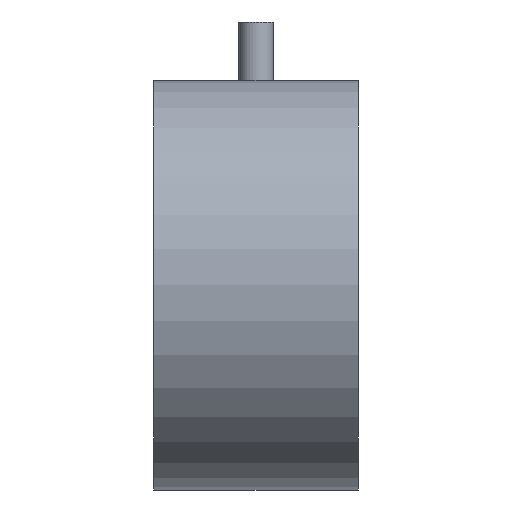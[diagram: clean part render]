
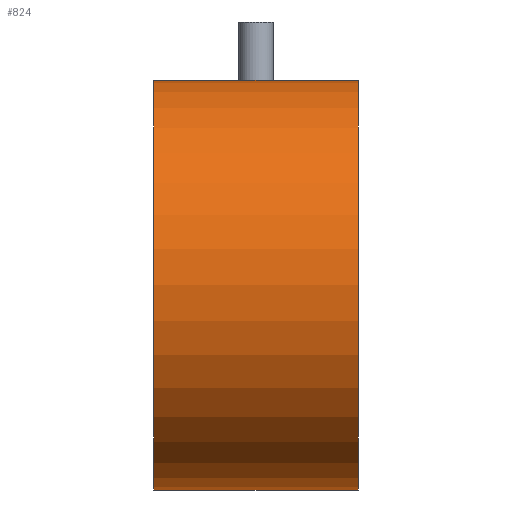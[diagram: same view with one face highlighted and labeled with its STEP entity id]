
A CAD part, front view. The second image highlights one B-rep face of the part: STEP entity #824.
In plain terms, the highlighted cylindrical face has radius 60 mm (diameter 120 mm), a full revolution.
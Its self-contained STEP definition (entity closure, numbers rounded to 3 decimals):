
#458 = VERTEX_POINT('',#459);
#459 = CARTESIAN_POINT('',(882.5,-301.266,1135.));
#468 = PLANE('',#469);
#469 = AXIS2_PLACEMENT_3D('',#470,#471,#472);
#470 = CARTESIAN_POINT('',(882.5,-350.,1065.));
#471 = DIRECTION('',(1.,0.,-0.));
#472 = DIRECTION('',(0.,0.,1.));
#480 = PLANE('',#481);
#481 = AXIS2_PLACEMENT_3D('',#482,#483,#484);
#482 = CARTESIAN_POINT('',(882.5,-350.,1135.));
#483 = DIRECTION('',(0.,0.,1.));
#484 = DIRECTION('',(1.,0.,-0.));
#492 = EDGE_CURVE('',#493,#458,#495,.T.);
#493 = VERTEX_POINT('',#494);
#494 = CARTESIAN_POINT('',(882.5,-301.266,1065.));
#495 = SURFACE_CURVE('',#496,(#501,#508),.PCURVE_S1.);
#496 = CIRCLE('',#497,60.);
#497 = AXIS2_PLACEMENT_3D('',#498,#499,#500);
#498 = CARTESIAN_POINT('',(882.5,-350.,1100.));
#499 = DIRECTION('',(1.,0.,0.));
#500 = DIRECTION('',(-0.,0.,1.));
#501 = PCURVE('',#468,#502);
#502 = DEFINITIONAL_REPRESENTATION('',(#503),#507);
#503 = CIRCLE('',#504,60.);
#504 = AXIS2_PLACEMENT_2D('',#505,#506);
#505 = CARTESIAN_POINT('',(35.,0.));
#506 = DIRECTION('',(1.,0.));
#507 = ( GEOMETRIC_REPRESENTATION_CONTEXT(2) 
PARAMETRIC_REPRESENTATION_CONTEXT() REPRESENTATION_CONTEXT('2D SPACE',''
  ) );
#508 = PCURVE('',#509,#514);
#509 = CYLINDRICAL_SURFACE('',#510,60.);
#510 = AXIS2_PLACEMENT_3D('',#511,#512,#513);
#511 = CARTESIAN_POINT('',(870.,-350.,1100.));
#512 = DIRECTION('',(1.,0.,0.));
#513 = DIRECTION('',(-0.,0.,1.));
#514 = DEFINITIONAL_REPRESENTATION('',(#515),#519);
#515 = LINE('',#516,#517);
#516 = CARTESIAN_POINT('',(0.,12.5));
#517 = VECTOR('',#518,1.);
#518 = DIRECTION('',(1.,0.));
#519 = ( GEOMETRIC_REPRESENTATION_CONTEXT(2) 
PARAMETRIC_REPRESENTATION_CONTEXT() REPRESENTATION_CONTEXT('2D SPACE',''
  ) );
#537 = PLANE('',#538);
#538 = AXIS2_PLACEMENT_3D('',#539,#540,#541);
#539 = CARTESIAN_POINT('',(882.5,-350.,1065.));
#540 = DIRECTION('',(0.,0.,1.));
#541 = DIRECTION('',(1.,0.,-0.));
#580 = EDGE_CURVE('',#458,#581,#583,.T.);
#581 = VERTEX_POINT('',#582);
#582 = CARTESIAN_POINT('',(917.5,-301.266,1135.));
#583 = SURFACE_CURVE('',#584,(#588,#594),.PCURVE_S1.);
#584 = LINE('',#585,#586);
#585 = CARTESIAN_POINT('',(870.,-301.266,1135.));
#586 = VECTOR('',#587,1.);
#587 = DIRECTION('',(1.,0.,0.));
#588 = PCURVE('',#480,#589);
#589 = DEFINITIONAL_REPRESENTATION('',(#590),#593);
#590 = B_SPLINE_CURVE_WITH_KNOTS('',1,(#591,#592),.UNSPECIFIED.,.F.,.F.,
  (2,2),(9.,51.),.PIECEWISE_BEZIER_KNOTS.);
#591 = CARTESIAN_POINT('',(-3.5,48.734));
#592 = CARTESIAN_POINT('',(38.5,48.734));
#593 = ( GEOMETRIC_REPRESENTATION_CONTEXT(2) 
PARAMETRIC_REPRESENTATION_CONTEXT() REPRESENTATION_CONTEXT('2D SPACE',''
  ) );
#594 = PCURVE('',#509,#595);
#595 = DEFINITIONAL_REPRESENTATION('',(#596),#599);
#596 = B_SPLINE_CURVE_WITH_KNOTS('',1,(#597,#598),.UNSPECIFIED.,.F.,.F.,
  (2,2),(9.,51.),.PIECEWISE_BEZIER_KNOTS.);
#597 = CARTESIAN_POINT('',(5.335,9.));
#598 = CARTESIAN_POINT('',(5.335,51.));
#599 = ( GEOMETRIC_REPRESENTATION_CONTEXT(2) 
PARAMETRIC_REPRESENTATION_CONTEXT() REPRESENTATION_CONTEXT('2D SPACE',''
  ) );
#617 = PLANE('',#618);
#618 = AXIS2_PLACEMENT_3D('',#619,#620,#621);
#619 = CARTESIAN_POINT('',(917.5,-350.,1065.));
#620 = DIRECTION('',(1.,0.,-0.));
#621 = DIRECTION('',(0.,0.,1.));
#782 = EDGE_CURVE('',#493,#783,#785,.T.);
#783 = VERTEX_POINT('',#784);
#784 = CARTESIAN_POINT('',(917.5,-301.266,1065.));
#785 = SURFACE_CURVE('',#786,(#790,#796),.PCURVE_S1.);
#786 = LINE('',#787,#788);
#787 = CARTESIAN_POINT('',(870.,-301.266,1065.));
#788 = VECTOR('',#789,1.);
#789 = DIRECTION('',(1.,0.,0.));
#790 = PCURVE('',#537,#791);
#791 = DEFINITIONAL_REPRESENTATION('',(#792),#795);
#792 = B_SPLINE_CURVE_WITH_KNOTS('',1,(#793,#794),.UNSPECIFIED.,.F.,.F.,
  (2,2),(9.,51.),.PIECEWISE_BEZIER_KNOTS.);
#793 = CARTESIAN_POINT('',(-3.5,48.734));
#794 = CARTESIAN_POINT('',(38.5,48.734));
#795 = ( GEOMETRIC_REPRESENTATION_CONTEXT(2) 
PARAMETRIC_REPRESENTATION_CONTEXT() REPRESENTATION_CONTEXT('2D SPACE',''
  ) );
#796 = PCURVE('',#509,#797);
#797 = DEFINITIONAL_REPRESENTATION('',(#798),#801);
#798 = B_SPLINE_CURVE_WITH_KNOTS('',1,(#799,#800),.UNSPECIFIED.,.F.,.F.,
  (2,2),(9.,51.),.PIECEWISE_BEZIER_KNOTS.);
#799 = CARTESIAN_POINT('',(4.09,9.));
#800 = CARTESIAN_POINT('',(4.09,51.));
#801 = ( GEOMETRIC_REPRESENTATION_CONTEXT(2) 
PARAMETRIC_REPRESENTATION_CONTEXT() REPRESENTATION_CONTEXT('2D SPACE',''
  ) );
#824 = ADVANCED_FACE('',(#825,#907),#509,.T.);
#825 = FACE_BOUND('',#826,.T.);
#826 = EDGE_LOOP('',(#827,#852,#879,#880));
#827 = ORIENTED_EDGE('',*,*,#828,.T.);
#828 = EDGE_CURVE('',#829,#831,#833,.T.);
#829 = VERTEX_POINT('',#830);
#830 = CARTESIAN_POINT('',(870.,-350.,1160.));
#831 = VERTEX_POINT('',#832);
#832 = CARTESIAN_POINT('',(930.,-350.,1160.));
#833 = SEAM_CURVE('',#834,(#838,#845),.PCURVE_S1.);
#834 = LINE('',#835,#836);
#835 = CARTESIAN_POINT('',(870.,-350.,1160.));
#836 = VECTOR('',#837,1.);
#837 = DIRECTION('',(1.,0.,0.));
#838 = PCURVE('',#509,#839);
#839 = DEFINITIONAL_REPRESENTATION('',(#840),#844);
#840 = LINE('',#841,#842);
#841 = CARTESIAN_POINT('',(6.283,-0.));
#842 = VECTOR('',#843,1.);
#843 = DIRECTION('',(0.,1.));
#844 = ( GEOMETRIC_REPRESENTATION_CONTEXT(2) 
PARAMETRIC_REPRESENTATION_CONTEXT() REPRESENTATION_CONTEXT('2D SPACE',''
  ) );
#845 = PCURVE('',#509,#846);
#846 = DEFINITIONAL_REPRESENTATION('',(#847),#851);
#847 = LINE('',#848,#849);
#848 = CARTESIAN_POINT('',(0.,-0.));
#849 = VECTOR('',#850,1.);
#850 = DIRECTION('',(0.,1.));
#851 = ( GEOMETRIC_REPRESENTATION_CONTEXT(2) 
PARAMETRIC_REPRESENTATION_CONTEXT() REPRESENTATION_CONTEXT('2D SPACE',''
  ) );
#852 = ORIENTED_EDGE('',*,*,#853,.F.);
#853 = EDGE_CURVE('',#831,#831,#854,.T.);
#854 = SURFACE_CURVE('',#855,(#860,#867),.PCURVE_S1.);
#855 = CIRCLE('',#856,60.);
#856 = AXIS2_PLACEMENT_3D('',#857,#858,#859);
#857 = CARTESIAN_POINT('',(930.,-350.,1100.));
#858 = DIRECTION('',(1.,0.,0.));
#859 = DIRECTION('',(-0.,0.,1.));
#860 = PCURVE('',#509,#861);
#861 = DEFINITIONAL_REPRESENTATION('',(#862),#866);
#862 = LINE('',#863,#864);
#863 = CARTESIAN_POINT('',(0.,60.));
#864 = VECTOR('',#865,1.);
#865 = DIRECTION('',(1.,0.));
#866 = ( GEOMETRIC_REPRESENTATION_CONTEXT(2) 
PARAMETRIC_REPRESENTATION_CONTEXT() REPRESENTATION_CONTEXT('2D SPACE',''
  ) );
#867 = PCURVE('',#868,#873);
#868 = PLANE('',#869);
#869 = AXIS2_PLACEMENT_3D('',#870,#871,#872);
#870 = CARTESIAN_POINT('',(930.,-350.,1100.));
#871 = DIRECTION('',(1.,0.,0.));
#872 = DIRECTION('',(-0.,0.,1.));
#873 = DEFINITIONAL_REPRESENTATION('',(#874),#878);
#874 = CIRCLE('',#875,60.);
#875 = AXIS2_PLACEMENT_2D('',#876,#877);
#876 = CARTESIAN_POINT('',(0.,0.));
#877 = DIRECTION('',(1.,0.));
#878 = ( GEOMETRIC_REPRESENTATION_CONTEXT(2) 
PARAMETRIC_REPRESENTATION_CONTEXT() REPRESENTATION_CONTEXT('2D SPACE',''
  ) );
#879 = ORIENTED_EDGE('',*,*,#828,.F.);
#880 = ORIENTED_EDGE('',*,*,#881,.T.);
#881 = EDGE_CURVE('',#829,#829,#882,.T.);
#882 = SURFACE_CURVE('',#883,(#888,#895),.PCURVE_S1.);
#883 = CIRCLE('',#884,60.);
#884 = AXIS2_PLACEMENT_3D('',#885,#886,#887);
#885 = CARTESIAN_POINT('',(870.,-350.,1100.));
#886 = DIRECTION('',(1.,0.,0.));
#887 = DIRECTION('',(-0.,0.,1.));
#888 = PCURVE('',#509,#889);
#889 = DEFINITIONAL_REPRESENTATION('',(#890),#894);
#890 = LINE('',#891,#892);
#891 = CARTESIAN_POINT('',(0.,0.));
#892 = VECTOR('',#893,1.);
#893 = DIRECTION('',(1.,0.));
#894 = ( GEOMETRIC_REPRESENTATION_CONTEXT(2) 
PARAMETRIC_REPRESENTATION_CONTEXT() REPRESENTATION_CONTEXT('2D SPACE',''
  ) );
#895 = PCURVE('',#896,#901);
#896 = PLANE('',#897);
#897 = AXIS2_PLACEMENT_3D('',#898,#899,#900);
#898 = CARTESIAN_POINT('',(870.,-350.,1100.));
#899 = DIRECTION('',(1.,0.,0.));
#900 = DIRECTION('',(-0.,0.,1.));
#901 = DEFINITIONAL_REPRESENTATION('',(#902),#906);
#902 = CIRCLE('',#903,60.);
#903 = AXIS2_PLACEMENT_2D('',#904,#905);
#904 = CARTESIAN_POINT('',(0.,0.));
#905 = DIRECTION('',(1.,0.));
#906 = ( GEOMETRIC_REPRESENTATION_CONTEXT(2) 
PARAMETRIC_REPRESENTATION_CONTEXT() REPRESENTATION_CONTEXT('2D SPACE',''
  ) );
#907 = FACE_BOUND('',#908,.T.);
#908 = EDGE_LOOP('',(#909,#910,#911,#933));
#909 = ORIENTED_EDGE('',*,*,#492,.F.);
#910 = ORIENTED_EDGE('',*,*,#782,.T.);
#911 = ORIENTED_EDGE('',*,*,#912,.T.);
#912 = EDGE_CURVE('',#783,#581,#913,.T.);
#913 = SURFACE_CURVE('',#914,(#919,#926),.PCURVE_S1.);
#914 = CIRCLE('',#915,60.);
#915 = AXIS2_PLACEMENT_3D('',#916,#917,#918);
#916 = CARTESIAN_POINT('',(917.5,-350.,1100.));
#917 = DIRECTION('',(1.,0.,0.));
#918 = DIRECTION('',(-0.,0.,1.));
#919 = PCURVE('',#509,#920);
#920 = DEFINITIONAL_REPRESENTATION('',(#921),#925);
#921 = LINE('',#922,#923);
#922 = CARTESIAN_POINT('',(0.,47.5));
#923 = VECTOR('',#924,1.);
#924 = DIRECTION('',(1.,0.));
#925 = ( GEOMETRIC_REPRESENTATION_CONTEXT(2) 
PARAMETRIC_REPRESENTATION_CONTEXT() REPRESENTATION_CONTEXT('2D SPACE',''
  ) );
#926 = PCURVE('',#617,#927);
#927 = DEFINITIONAL_REPRESENTATION('',(#928),#932);
#928 = CIRCLE('',#929,60.);
#929 = AXIS2_PLACEMENT_2D('',#930,#931);
#930 = CARTESIAN_POINT('',(35.,0.));
#931 = DIRECTION('',(1.,0.));
#932 = ( GEOMETRIC_REPRESENTATION_CONTEXT(2) 
PARAMETRIC_REPRESENTATION_CONTEXT() REPRESENTATION_CONTEXT('2D SPACE',''
  ) );
#933 = ORIENTED_EDGE('',*,*,#580,.F.);
